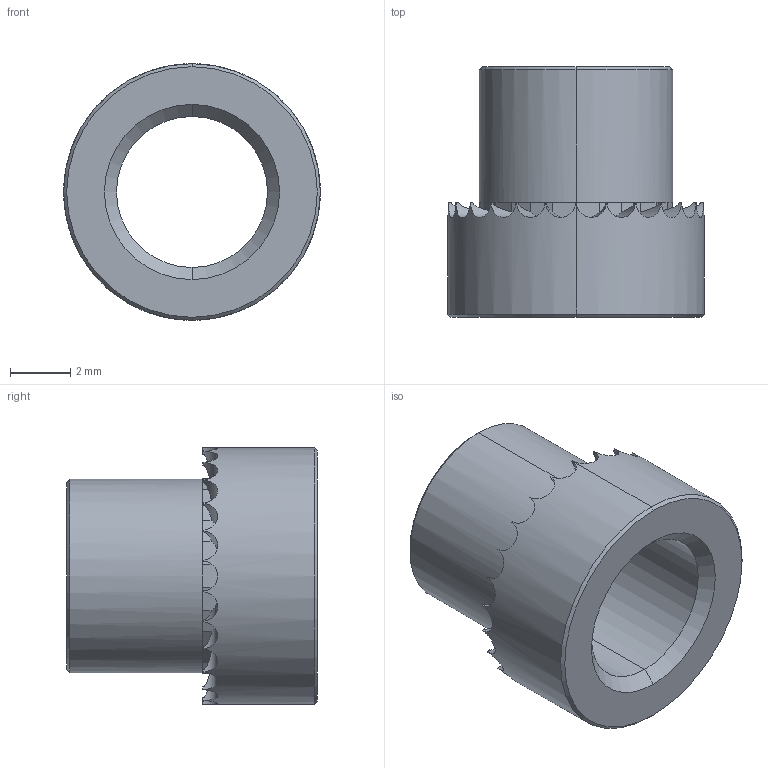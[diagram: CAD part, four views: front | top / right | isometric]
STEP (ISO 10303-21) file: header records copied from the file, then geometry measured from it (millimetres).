
FILE_DESCRIPTION (( 'STEP AP203' ), '1' );
FILE_NAME ('P0829.050-08G-ZP.step', '2019-03-21T22:18:03', ( '' ), ( '' ), 'SwSTEP 2.0', 'SolidWorks 2017', '' );
FILE_SCHEMA (( 'CONFIG_CONTROL_DESIGN' ));
Length unit declared in the file: millimetre
Products named in the file (1): P0829.050-08G-ZP
Bounding box: 8.5 x 8.3 x 8.5 mm (x, y, z)
Volume: 184.4 mm3; surface area: 392.7 mm2
Topology: 1 solids, 1 shells, 120 faces, 294 edges, 176 vertices
Faces by surface type: plane 80, cylinder 32, cone 8
Entity records: 3739 total; most frequent: CARTESIAN_POINT 903, ORIENTED_EDGE 588, DIRECTION 582, EDGE_CURVE 294, AXIS2_PLACEMENT_3D 219, VERTEX_POINT 176, LINE 144, VECTOR 144
